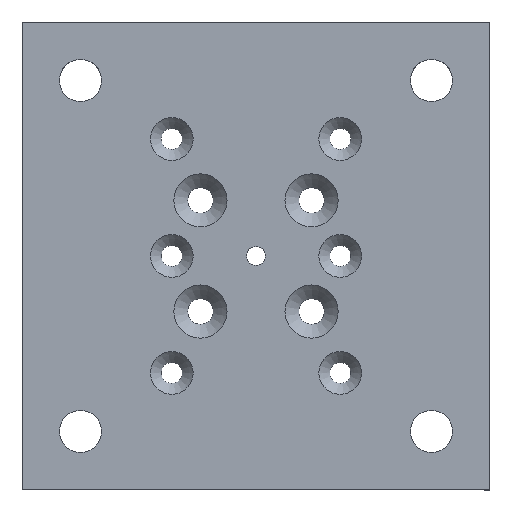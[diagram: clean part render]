
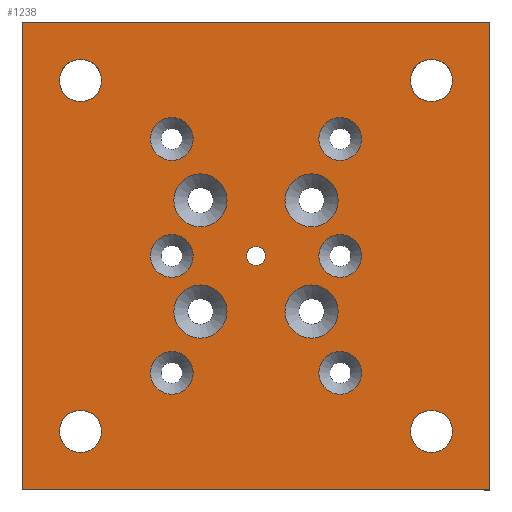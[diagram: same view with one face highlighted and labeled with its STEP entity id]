
A CAD part, top view. The second image highlights one B-rep face of the part: STEP entity #1238.
In plain terms, the highlighted planar face has unit normal (0, 0, 1).
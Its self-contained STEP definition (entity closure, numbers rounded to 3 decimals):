
#566=CIRCLE('',#1162,9.);
#567=CIRCLE('',#1163,9.);
#568=CIRCLE('',#1164,9.);
#569=CIRCLE('',#1165,9.);
#570=CIRCLE('',#1166,9.125);
#571=CIRCLE('',#1167,9.125);
#572=CIRCLE('',#1168,9.125);
#573=CIRCLE('',#1169,9.125);
#574=CIRCLE('',#1170,9.125);
#575=CIRCLE('',#1171,9.125);
#576=CIRCLE('',#1172,11.365);
#577=CIRCLE('',#1173,11.365);
#578=CIRCLE('',#1174,11.365);
#579=CIRCLE('',#1175,11.365);
#580=CIRCLE('',#1176,4.);
#610=ORIENTED_EDGE('',*,*,#786,.T.);
#611=ORIENTED_EDGE('',*,*,#787,.F.);
#612=ORIENTED_EDGE('',*,*,#782,.F.);
#613=ORIENTED_EDGE('',*,*,#788,.T.);
#614=ORIENTED_EDGE('',*,*,#789,.T.);
#615=ORIENTED_EDGE('',*,*,#790,.T.);
#616=ORIENTED_EDGE('',*,*,#791,.T.);
#617=ORIENTED_EDGE('',*,*,#792,.T.);
#618=ORIENTED_EDGE('',*,*,#793,.F.);
#619=ORIENTED_EDGE('',*,*,#794,.F.);
#620=ORIENTED_EDGE('',*,*,#795,.F.);
#621=ORIENTED_EDGE('',*,*,#796,.F.);
#622=ORIENTED_EDGE('',*,*,#797,.F.);
#623=ORIENTED_EDGE('',*,*,#798,.F.);
#624=ORIENTED_EDGE('',*,*,#799,.F.);
#625=ORIENTED_EDGE('',*,*,#800,.F.);
#626=ORIENTED_EDGE('',*,*,#801,.F.);
#627=ORIENTED_EDGE('',*,*,#802,.F.);
#628=ORIENTED_EDGE('',*,*,#803,.F.);
#710=VECTOR('',#1008,1.);
#714=VECTOR('',#1014,1.);
#715=VECTOR('',#1015,1.);
#716=VECTOR('',#1016,1.);
#722=LINE('',#1283,#710);
#726=LINE('',#1292,#714);
#727=LINE('',#1293,#715);
#728=LINE('',#1294,#716);
#734=VERTEX_POINT('',#1281);
#735=VERTEX_POINT('',#1282);
#738=VERTEX_POINT('',#1290);
#739=VERTEX_POINT('',#1291);
#740=VERTEX_POINT('',#1295);
#741=VERTEX_POINT('',#1297);
#742=VERTEX_POINT('',#1299);
#743=VERTEX_POINT('',#1301);
#744=VERTEX_POINT('',#1303);
#745=VERTEX_POINT('',#1305);
#746=VERTEX_POINT('',#1307);
#747=VERTEX_POINT('',#1309);
#748=VERTEX_POINT('',#1311);
#749=VERTEX_POINT('',#1313);
#750=VERTEX_POINT('',#1315);
#751=VERTEX_POINT('',#1317);
#752=VERTEX_POINT('',#1319);
#753=VERTEX_POINT('',#1321);
#754=VERTEX_POINT('',#1323);
#782=EDGE_CURVE('',#734,#735,#722,.T.);
#786=EDGE_CURVE('',#738,#739,#726,.T.);
#787=EDGE_CURVE('',#735,#739,#727,.T.);
#788=EDGE_CURVE('',#734,#738,#728,.T.);
#789=EDGE_CURVE('',#740,#740,#566,.T.);
#790=EDGE_CURVE('',#741,#741,#567,.T.);
#791=EDGE_CURVE('',#742,#742,#568,.T.);
#792=EDGE_CURVE('',#743,#743,#569,.T.);
#793=EDGE_CURVE('',#744,#744,#570,.T.);
#794=EDGE_CURVE('',#745,#745,#571,.T.);
#795=EDGE_CURVE('',#746,#746,#572,.T.);
#796=EDGE_CURVE('',#747,#747,#573,.T.);
#797=EDGE_CURVE('',#748,#748,#574,.T.);
#798=EDGE_CURVE('',#749,#749,#575,.T.);
#799=EDGE_CURVE('',#750,#750,#576,.T.);
#800=EDGE_CURVE('',#751,#751,#577,.T.);
#801=EDGE_CURVE('',#752,#752,#578,.T.);
#802=EDGE_CURVE('',#753,#753,#579,.T.);
#803=EDGE_CURVE('',#754,#754,#580,.T.);
#835=EDGE_LOOP('',(#610,#611,#612,#613));
#836=EDGE_LOOP('',(#614));
#837=EDGE_LOOP('',(#615));
#838=EDGE_LOOP('',(#616));
#839=EDGE_LOOP('',(#617));
#840=EDGE_LOOP('',(#618));
#841=EDGE_LOOP('',(#619));
#842=EDGE_LOOP('',(#620));
#843=EDGE_LOOP('',(#621));
#844=EDGE_LOOP('',(#622));
#845=EDGE_LOOP('',(#623));
#846=EDGE_LOOP('',(#624));
#847=EDGE_LOOP('',(#625));
#848=EDGE_LOOP('',(#626));
#849=EDGE_LOOP('',(#627));
#850=EDGE_LOOP('',(#628));
#921=FACE_BOUND('',#835,.T.);
#922=FACE_BOUND('',#836,.T.);
#923=FACE_BOUND('',#837,.T.);
#924=FACE_BOUND('',#838,.T.);
#925=FACE_BOUND('',#839,.T.);
#926=FACE_BOUND('',#840,.T.);
#927=FACE_BOUND('',#841,.T.);
#928=FACE_BOUND('',#842,.T.);
#929=FACE_BOUND('',#843,.T.);
#930=FACE_BOUND('',#844,.T.);
#931=FACE_BOUND('',#845,.T.);
#932=FACE_BOUND('',#846,.T.);
#933=FACE_BOUND('',#847,.T.);
#934=FACE_BOUND('',#848,.T.);
#935=FACE_BOUND('',#849,.T.);
#936=FACE_BOUND('',#850,.T.);
#1008=DIRECTION('',(-200.,0.,0.));
#1012=DIRECTION('',(0.,0.,1.));
#1013=DIRECTION('',(0.,-1.,0.));
#1014=DIRECTION('',(-200.,0.,0.));
#1015=DIRECTION('',(0.,200.,0.));
#1016=DIRECTION('',(0.,200.,0.));
#1017=DIRECTION('',(0.,0.,-1.));
#1018=DIRECTION('',(0.,9.,0.));
#1019=DIRECTION('',(0.,0.,-1.));
#1020=DIRECTION('',(0.,9.,0.));
#1021=DIRECTION('',(0.,0.,-1.));
#1022=DIRECTION('',(0.,9.,0.));
#1023=DIRECTION('',(0.,0.,-1.));
#1024=DIRECTION('',(0.,9.,0.));
#1025=DIRECTION('',(0.,0.,1.));
#1026=DIRECTION('',(9.125,0.,0.));
#1027=DIRECTION('',(0.,0.,1.));
#1028=DIRECTION('',(9.125,0.,0.));
#1029=DIRECTION('',(0.,0.,1.));
#1030=DIRECTION('',(9.125,0.,0.));
#1031=DIRECTION('',(0.,0.,1.));
#1032=DIRECTION('',(9.125,0.,0.));
#1033=DIRECTION('',(0.,0.,1.));
#1034=DIRECTION('',(9.125,0.,0.));
#1035=DIRECTION('',(0.,0.,1.));
#1036=DIRECTION('',(9.125,0.,0.));
#1037=DIRECTION('',(0.,0.,1.));
#1038=DIRECTION('',(0.,11.365,0.));
#1039=DIRECTION('',(0.,0.,1.));
#1040=DIRECTION('',(0.,11.365,0.));
#1041=DIRECTION('',(0.,0.,1.));
#1042=DIRECTION('',(0.,11.365,0.));
#1043=DIRECTION('',(0.,0.,1.));
#1044=DIRECTION('',(0.,11.365,0.));
#1045=DIRECTION('',(0.,0.,1.));
#1046=DIRECTION('',(0.,-4.,0.));
#1161=AXIS2_PLACEMENT_3D('',#1289,#1012,#1013);
#1162=AXIS2_PLACEMENT_3D('',#1296,#1017,#1018);
#1163=AXIS2_PLACEMENT_3D('',#1298,#1019,#1020);
#1164=AXIS2_PLACEMENT_3D('',#1300,#1021,#1022);
#1165=AXIS2_PLACEMENT_3D('',#1302,#1023,#1024);
#1166=AXIS2_PLACEMENT_3D('',#1304,#1025,#1026);
#1167=AXIS2_PLACEMENT_3D('',#1306,#1027,#1028);
#1168=AXIS2_PLACEMENT_3D('',#1308,#1029,#1030);
#1169=AXIS2_PLACEMENT_3D('',#1310,#1031,#1032);
#1170=AXIS2_PLACEMENT_3D('',#1312,#1033,#1034);
#1171=AXIS2_PLACEMENT_3D('',#1314,#1035,#1036);
#1172=AXIS2_PLACEMENT_3D('',#1316,#1037,#1038);
#1173=AXIS2_PLACEMENT_3D('',#1318,#1039,#1040);
#1174=AXIS2_PLACEMENT_3D('',#1320,#1041,#1042);
#1175=AXIS2_PLACEMENT_3D('',#1322,#1043,#1044);
#1176=AXIS2_PLACEMENT_3D('',#1324,#1045,#1046);
#1232=PLANE('',#1161);
#1238=ADVANCED_FACE('',(#921,#922,#923,#924,#925,#926,#927,#928,#929,#930,
#931,#932,#933,#934,#935,#936),#1232,.T.);
#1281=CARTESIAN_POINT('',(200.,-100.,7.5));
#1282=CARTESIAN_POINT('',(0.,-100.,7.5));
#1283=CARTESIAN_POINT('',(200.,-100.,7.5));
#1289=CARTESIAN_POINT('',(200.,100.,7.5));
#1290=CARTESIAN_POINT('',(200.,100.,7.5));
#1291=CARTESIAN_POINT('',(0.,100.,7.5));
#1292=CARTESIAN_POINT('',(200.,100.,7.5));
#1293=CARTESIAN_POINT('',(0.,-100.,7.5));
#1294=CARTESIAN_POINT('',(200.,-100.,7.5));
#1295=CARTESIAN_POINT('',(25.,84.,7.5));
#1296=CARTESIAN_POINT('',(25.,75.,7.5));
#1297=CARTESIAN_POINT('',(175.,84.,7.5));
#1298=CARTESIAN_POINT('',(175.,75.,7.5));
#1299=CARTESIAN_POINT('',(25.,-66.,7.5));
#1300=CARTESIAN_POINT('',(25.,-75.,7.5));
#1301=CARTESIAN_POINT('',(175.,-66.,7.5));
#1302=CARTESIAN_POINT('',(175.,-75.,7.5));
#1303=CARTESIAN_POINT('',(145.125,-50.,7.5));
#1304=CARTESIAN_POINT('',(136.,-50.,7.5));
#1305=CARTESIAN_POINT('',(145.125,0.,7.5));
#1306=CARTESIAN_POINT('',(136.,0.,7.5));
#1307=CARTESIAN_POINT('',(145.125,50.,7.5));
#1308=CARTESIAN_POINT('',(136.,50.,7.5));
#1309=CARTESIAN_POINT('',(73.125,-50.,7.5));
#1310=CARTESIAN_POINT('',(64.,-50.,7.5));
#1311=CARTESIAN_POINT('',(73.125,0.,7.5));
#1312=CARTESIAN_POINT('',(64.,0.,7.5));
#1313=CARTESIAN_POINT('',(73.125,50.,7.5));
#1314=CARTESIAN_POINT('',(64.,50.,7.5));
#1315=CARTESIAN_POINT('',(123.75,35.115,7.5));
#1316=CARTESIAN_POINT('',(123.75,23.75,7.5));
#1317=CARTESIAN_POINT('',(76.25,35.115,7.5));
#1318=CARTESIAN_POINT('',(76.25,23.75,7.5));
#1319=CARTESIAN_POINT('',(123.75,-12.385,7.5));
#1320=CARTESIAN_POINT('',(123.75,-23.75,7.5));
#1321=CARTESIAN_POINT('',(76.25,-12.385,7.5));
#1322=CARTESIAN_POINT('',(76.25,-23.75,7.5));
#1323=CARTESIAN_POINT('',(100.,-4.,7.5));
#1324=CARTESIAN_POINT('',(100.,0.,7.5));
